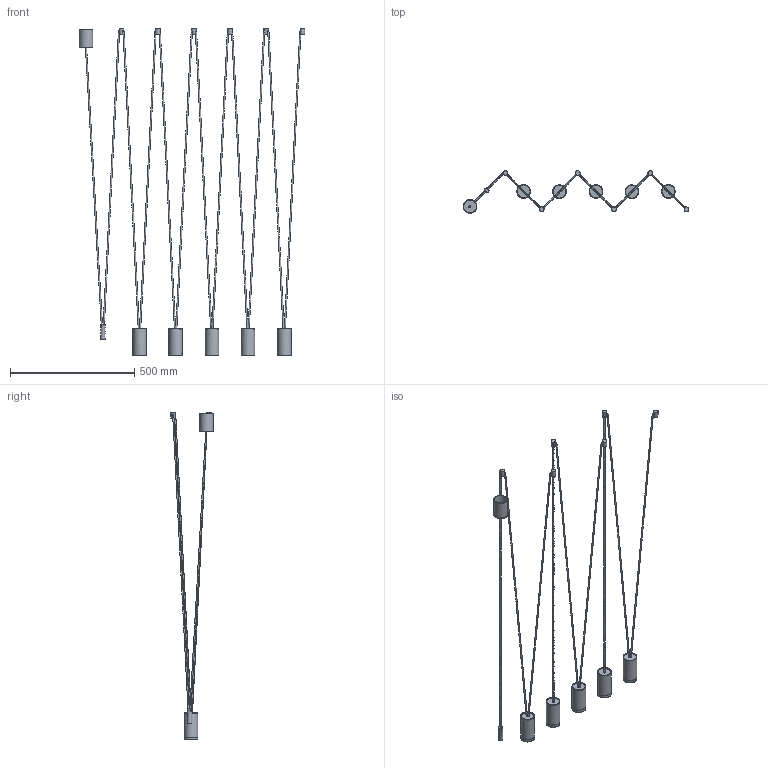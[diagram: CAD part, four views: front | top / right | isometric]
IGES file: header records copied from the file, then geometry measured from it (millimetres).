
Start section: SolidWorks IGES file using NURBS representation for surfaces
Global section: file name: Z:\Modele 3D_WWW\_KOLEKCJE_WWW\MORE-EYE\MORE-EYE-7826-7825-7608\MORE-EYE-7826-7825-7608.IGS; native system: SolidWorks 2021; preprocessor: SolidWorks 2021; author: gabriela.tworek; date: 211119.123534; units: millimetre
Bounding box: 907 x 170.96 x 1318.28 mm (x, y, z)
Surface area: 508335.8 mm2 (no closed solid volume)
Topology: 0 solids, 0 shells, 175 faces, 765 edges, 681 vertices
Faces by surface type: bspline 175
